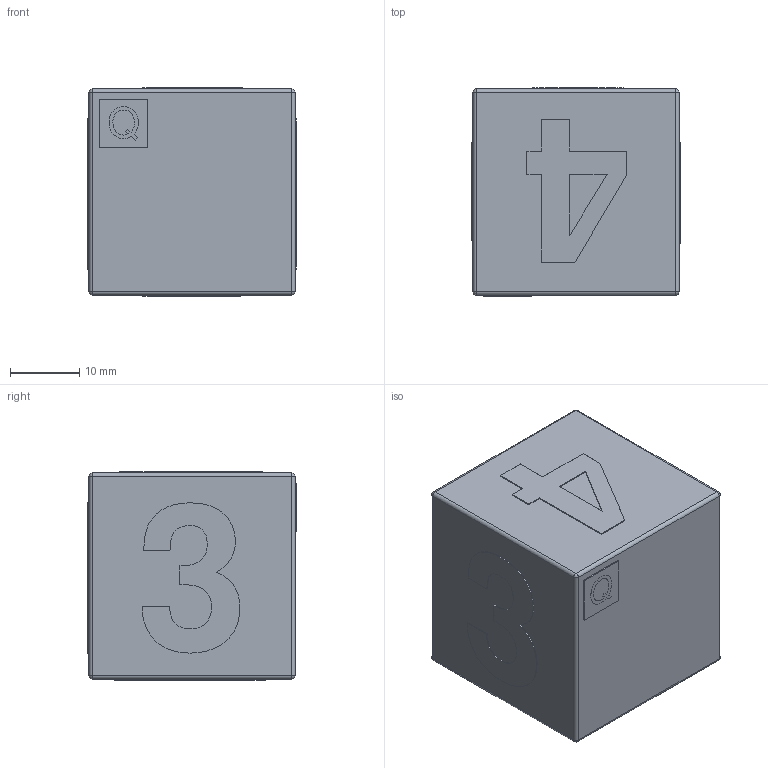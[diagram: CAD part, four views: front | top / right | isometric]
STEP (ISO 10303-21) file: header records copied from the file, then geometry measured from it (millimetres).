
FILE_DESCRIPTION(('Open CASCADE Model'),'2;1');
FILE_NAME('Open CASCADE Shape Model','2025-09-14T20:47:15',('Author'),( 'Open CASCADE'),'Open CASCADE STEP processor 7.8','Open CASCADE 7.8' ,'Unknown');
FILE_SCHEMA(('AUTOMOTIVE_DESIGN { 1 0 10303 214 1 1 1 1 }'));
Length unit declared in the file: millimetre
Products named in the file (18): 9d7506f6-91a3-11f0-88d2-1c1b0deae66b; 9d750890-91a3-11f0-88d2-1c1b0deae66b; 9d750890-91a3-11f0-88d2-1c1b0deae66b_part; 9d77fdb6-91a3-11f0-88d2-1c1b0deae66b; 9d77fdb6-91a3-11f0-88d2-1c1b0deae66b_part; 9d79ae90-91a3-11f0-88d2-1c1b0deae66b; 9d79ae90-91a3-11f0-88d2-1c1b0deae66b_part; 9d7b581c-91a3-11f0-88d2-1c1b0deae66b; 9d7b581c-91a3-11f0-88d2-1c1b0deae66b_part; 9d7c9d30-91a3-11f0-88d2-1c1b0deae66b; 9d7c9d30-91a3-11f0-88d2-1c1b0deae66b_part; 9d7e72fe-91a3-11f0-88d2-1c1b0deae66b; 9d7e72fe-91a3-11f0-88d2-1c1b0deae66b_part; 9d894fee-91a3-11f0-88d2-1c1b0deae66b; 9d894fee-91a3-11f0-88d2-1c1b0deae66b_part; 9d895156-91a3-11f0-88d2-1c1b0deae66b; 9d895156-91a3-11f0-88d2-1c1b0deae66b_part
Assembly tree (17 placements, depth 4):
  9d7506f6-91a3-11f0-88d2-1c1b0deae66b
    9d7506f6-91a3-11f0-88d2-1c1b0deae66b
      9d750890-91a3-11f0-88d2-1c1b0deae66b
        9d750890-91a3-11f0-88d2-1c1b0deae66b_part
      9d77fdb6-91a3-11f0-88d2-1c1b0deae66b
        9d77fdb6-91a3-11f0-88d2-1c1b0deae66b_part
      9d79ae90-91a3-11f0-88d2-1c1b0deae66b
        9d79ae90-91a3-11f0-88d2-1c1b0deae66b_part
      9d7b581c-91a3-11f0-88d2-1c1b0deae66b
        9d7b581c-91a3-11f0-88d2-1c1b0deae66b_part
      9d7c9d30-91a3-11f0-88d2-1c1b0deae66b
        9d7c9d30-91a3-11f0-88d2-1c1b0deae66b_part
      9d7e72fe-91a3-11f0-88d2-1c1b0deae66b
        9d7e72fe-91a3-11f0-88d2-1c1b0deae66b_part
      9d894fee-91a3-11f0-88d2-1c1b0deae66b
        9d894fee-91a3-11f0-88d2-1c1b0deae66b_part
      9d895156-91a3-11f0-88d2-1c1b0deae66b
        9d895156-91a3-11f0-88d2-1c1b0deae66b_part
Bounding box: 30 x 30 x 30 mm (x, y, z)
Volume: 26313.6 mm3; surface area: 7095.3 mm2
Topology: 9 solids, 9 shells, 234 faces, 632 edges, 408 vertices
Faces by surface type: extrusion 133, plane 81, cylinder 12, sphere 8
Entity records: 15863 total; most frequent: CARTESIAN_POINT 3894, DIRECTION 1703, VECTOR 1417, LINE 1284, ORIENTED_EDGE 1248, PCURVE 1248, DEFINITIONAL_REPRESENTATION 1248, B_SPLINE_CURVE_WITH_KNOTS 697
